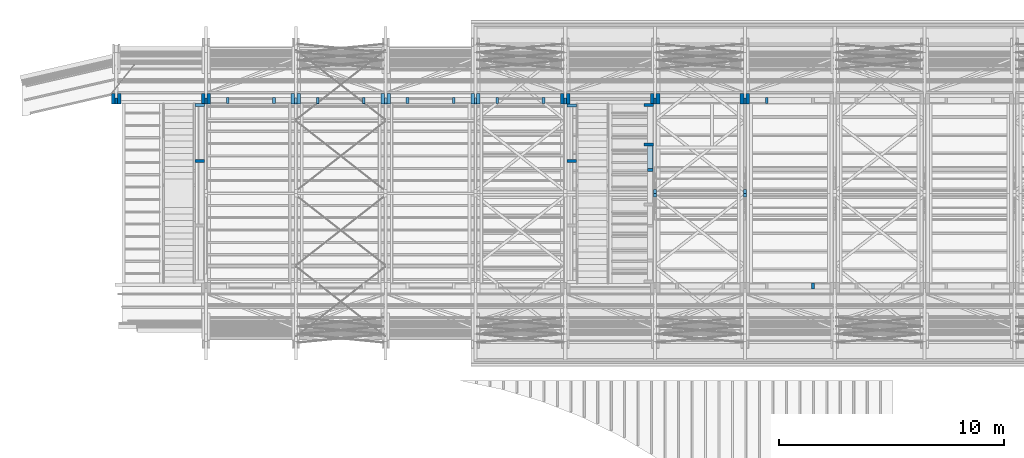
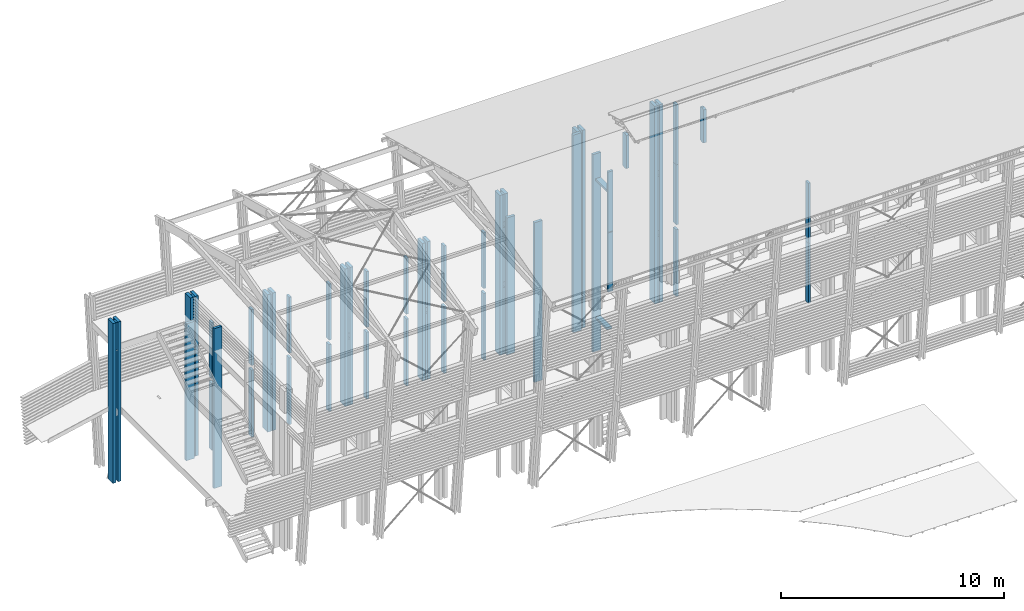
# One storey, part 2 of 48: 70 columns.
"""IFC2X3 building model written with IfcOpenShell, lengths in metres."""

from ifc_helpers import new_model, si_unit, direction, frame, origin_with_axes, place, context, subcontext, project, spatial, faceted_brep, material, element, save


model = new_model("IFC2X3")

# Units and contexts
model_context = context("Model", 3, precision=1e-06, world=origin_with_axes(), true_north=direction((0.0, 1.0, 0.0)))
body_context = subcontext(model_context, "Body", "Model", "MODEL_VIEW")
ifc_project = project(units=[si_unit("LENGTHUNIT", "METRE"), si_unit("AREAUNIT", "SQUARE_METRE"), si_unit("VOLUMEUNIT", "CUBIC_METRE"), si_unit("PLANEANGLEUNIT", "RADIAN")], contexts=[model_context])

# Site, building, storey
site_placement = place(None, origin_with_axes())
site = spatial("IfcSite", under=ifc_project, at=site_placement, CompositionType="ELEMENT")
building_placement = place(site_placement, origin_with_axes())
building = spatial("IfcBuilding", under=site, at=building_placement, Name="Building 1", CompositionType="ELEMENT")
storey_placement = place(building_placement, origin_with_axes())
storey = spatial("IfcBuildingStorey", under=building, at=storey_placement, Name="Storey 1", CompositionType="ELEMENT", Elevation=0.0)

# Columns
ifc_material = material(Name="GL28h")
column_1_placement = place(storey_placement, frame((38.4597437, -185.0764881, 0.3), z_axis=(0.0, 1.0, 0.0), x_axis=(0.0, 0.0, 1.0)))
element("IfcColumn", 1, at=column_1_placement, inside=storey, material=ifc_material, Name="poteau encadrement menuiserie", context=body_context, shape_type="Brep", body=[
    faceted_brep([(3.655, -0.06, -0.13), (0.0, -0.06, -0.13), (0.0, 0.06, -0.13), (3.655, 0.06, -0.13), (3.655, -0.06, 0.13), (0.0, -0.06, 0.13), (3.655, 0.06, 0.13), (0.0, 0.06, 0.13)], [[[0, 1, 2, 3]], [[4, 5, 1, 0]], [[6, 7, 5, 4]], [[3, 2, 7, 6]], [[3, 6, 4, 0]], [[7, 2, 1, 5]]]),
])
column_2_placement = place(storey_placement, frame((37.4897437, -185.0964881, 0.3), z_axis=(0.0, 1.0, 0.0), x_axis=(0.0, 0.0, 1.0)))
element("IfcColumn", 2, at=column_2_placement, inside=storey, material=ifc_material, Name="Fourrure", context=body_context, shape_type="Brep", body=[
    faceted_brep([(3.629, 0.05, -0.13), (3.629, 0.05, 0.13), (3.629, -0.05, 0.13), (3.629, -0.05, -0.13), (0.0, 0.05, 0.13), (0.0, -0.05, 0.13), (0.0, 0.05, -0.13), (0.0, -0.05, -0.13)], [[[0, 1, 2, 3]], [[2, 1, 4, 5]], [[1, 0, 6, 4]], [[0, 3, 7, 6]], [[3, 2, 5, 7]], [[4, 6, 7, 5]]]),
])
column_3_placement = place(storey_placement, frame((37.6197437, -184.9964881, 0.3), z_axis=(0.0, 1.0, 0.0), x_axis=(0.0, 0.0, 1.0)))
element("IfcColumn", 3, at=column_3_placement, inside=storey, material=ifc_material, Name="Poteau", context=body_context, shape_type="Brep", body=[
    faceted_brep([(7.509, 0.08, 0.23), (7.509, 0.08, -0.23), (0.0, 0.08, -0.23), (0.0, 0.08, 0.23), (7.509, -0.08, -0.23), (0.0, -0.08, -0.23), (7.509, -0.08, 0.23), (0.0, -0.08, 0.23)], [[[0, 1, 2, 3]], [[1, 4, 5, 2]], [[4, 6, 7, 5]], [[6, 0, 3, 7]], [[0, 6, 4, 1]], [[5, 7, 3, 2]]]),
])
column_4_placement = place(storey_placement, frame((28.5197437, -185.0764881, 4.215), z_axis=(0.0, -1.0, 0.0), x_axis=(0.0, 0.0, 1.0)))
element("IfcColumn", 4, at=column_4_placement, inside=storey, material=ifc_material, Name="poteau encadrement menuiserie", context=body_context, shape_type="Brep", body=[
    faceted_brep([(3.055, 0.06, -0.13), (3.055, -0.06, -0.13), (0.0, -0.06, -0.13), (0.0, 0.06, -0.13), (3.055, -0.06, 0.13), (0.0, -0.06, 0.13), (3.055, 0.06, 0.13), (0.0, 0.06, 0.13)], [[[0, 1, 2, 3]], [[1, 4, 5, 2]], [[4, 6, 7, 5]], [[6, 0, 3, 7]], [[0, 6, 4, 1]], [[7, 3, 2, 5]]]),
])
column_5_placement = place(storey_placement, frame((41.7697437, -187.7680698, 0.3), z_axis=(-1.0, 0.0, 0.0), x_axis=(0.0, 0.0, 1.0)))
element("IfcColumn", 5, at=column_5_placement, inside=storey, material=ifc_material, Name="poteau", context=body_context, shape_type="Brep", body=[
    faceted_brep([(8.73, 0.07, 0.21), (8.73, 0.07, -0.21), (0.0, 0.07, -0.21), (0.0, 0.07, 0.21), (8.73, -0.07, -0.21), (0.0, -0.07, -0.21), (8.73, -0.07, 0.21), (0.0, -0.07, 0.21)], [[[0, 1, 2, 3]], [[1, 4, 5, 2]], [[4, 6, 7, 5]], [[6, 0, 3, 7]], [[0, 6, 4, 1]], [[5, 7, 3, 2]]]),
])
column_6_placement = place(storey_placement, frame((41.3597437, -184.9964881, 0.3), z_axis=(0.0, 1.0, 0.0), x_axis=(0.0, 0.0, 1.0)))
element("IfcColumn", 6, at=column_6_placement, inside=storey, material=ifc_material, Name="Poteau", context=body_context, shape_type="Brep", body=[
    faceted_brep([(8.73, 0.08, 0.23), (8.73, 0.08, -0.23), (0.0, 0.08, -0.23), (0.0, 0.08, 0.23), (8.73, -0.08, -0.23), (0.0, -0.08, -0.23), (8.73, -0.08, 0.23), (0.0, -0.08, 0.23)], [[[0, 1, 2, 3]], [[1, 4, 5, 2]], [[4, 6, 7, 5]], [[6, 0, 3, 7]], [[0, 6, 4, 1]], [[5, 7, 3, 2]]]),
])
column_7_placement = place(storey_placement, frame((41.4897437, -185.0964881, 4.249), z_axis=(0.0, 1.0, 0.0), x_axis=(0.0, 0.0, 1.0)))
element("IfcColumn", 7, at=column_7_placement, inside=storey, material=ifc_material, Name="Fourrure", context=body_context, shape_type="Brep", body=[
    faceted_brep([(0.0, 0.05, -0.13), (0.0, -0.05, -0.13), (0.0, -0.05, 0.13), (0.0, 0.05, 0.13), (2.96, -0.05, -0.13), (2.96, -0.05, 0.13), (2.96, 0.05, -0.13), (2.96, 0.05, 0.13)], [[[0, 1, 2, 3]], [[2, 1, 4, 5]], [[1, 0, 6, 4]], [[3, 2, 5, 7]], [[0, 3, 7, 6]], [[6, 7, 5, 4]]]),
])
column_8_placement = place(storey_placement, frame((45.2697437, -188.1664884, 7.495), z_axis=(-1.0, 0.0, 0.0), x_axis=(0.0, 0.0, 1.0)))
element("IfcColumn", 8, at=column_8_placement, inside=storey, material=ifc_material, Name="poteau encadrement menuiserie", context=body_context, shape_type="Brep", body=[
    faceted_brep([(3.285, -0.06, -0.13), (0.0, -0.06, -0.13), (0.0, 0.06, -0.13), (3.285, 0.06, -0.13), (3.285, -0.06, 0.13), (0.0, -0.06, 0.13), (3.285, 0.06, 0.13), (0.0, 0.06, 0.13)], [[[0, 1, 2, 3]], [[4, 5, 1, 0]], [[6, 7, 5, 4]], [[3, 2, 7, 6]], [[3, 6, 4, 0]], [[7, 2, 1, 5]]]),
])
column_9_placement = place(storey_placement, frame((25.6197437, -184.9964881, 0.3), z_axis=(0.0, 1.0, 0.0), x_axis=(0.0, 0.0, 1.0)))
element("IfcColumn", 9, at=column_9_placement, inside=storey, material=ifc_material, Name="Poteau", context=body_context, shape_type="Brep", body=[
    faceted_brep([(8.73, 0.08, 0.23), (8.73, 0.08, -0.23), (0.0, 0.08, -0.23), (0.0, 0.08, 0.23), (8.73, -0.08, -0.23), (0.0, -0.08, -0.23), (8.73, -0.08, 0.23), (0.0, -0.08, 0.23)], [[[0, 1, 2, 3]], [[1, 4, 5, 2]], [[4, 6, 7, 5]], [[6, 0, 3, 7]], [[0, 6, 4, 1]], [[5, 7, 3, 2]]]),
])
column_10_placement = place(storey_placement, frame((33.3597437, -184.9964881, 0.3), z_axis=(0.0, 1.0, 0.0), x_axis=(0.0, 0.0, 1.0)))
element("IfcColumn", 10, at=column_10_placement, inside=storey, material=ifc_material, Name="Poteau", context=body_context, shape_type="Brep", body=[
    faceted_brep([(7.509, 0.08, 0.23), (7.509, 0.08, -0.23), (0.0, 0.08, -0.23), (0.0, 0.08, 0.23), (7.509, -0.08, -0.23), (0.0, -0.08, -0.23), (7.509, -0.08, 0.23), (0.0, -0.08, 0.23)], [[[0, 1, 2, 3]], [[1, 4, 5, 2]], [[4, 6, 7, 5]], [[6, 0, 3, 7]], [[0, 6, 4, 1]], [[5, 7, 3, 2]]]),
])
column_11_placement = place(storey_placement, frame((30.4597437, -185.0764881, 0.3), z_axis=(0.0, 1.0, 0.0), x_axis=(0.0, 0.0, 1.0)))
element("IfcColumn", 11, at=column_11_placement, inside=storey, material=ifc_material, Name="poteau encadrement menuiserie", context=body_context, shape_type="Brep", body=[
    faceted_brep([(3.655, -0.06, -0.13), (0.0, -0.06, -0.13), (0.0, 0.06, -0.13), (3.655, 0.06, -0.13), (3.655, -0.06, 0.13), (0.0, -0.06, 0.13), (3.655, 0.06, 0.13), (0.0, 0.06, 0.13)], [[[0, 1, 2, 3]], [[4, 5, 1, 0]], [[6, 7, 5, 4]], [[3, 2, 7, 6]], [[3, 6, 4, 0]], [[7, 2, 1, 5]]]),
])
column_12_placement = place(storey_placement, frame((21.3597437, -184.9964881, 0.3), z_axis=(0.0, 1.0, 0.0), x_axis=(0.0, 0.0, 1.0)))
element("IfcColumn", 12, at=column_12_placement, inside=storey, material=ifc_material, Name="Poteau", context=body_context, shape_type="Brep", body=[
    faceted_brep([(8.73, 0.08, 0.23), (8.73, 0.08, -0.23), (0.0, 0.08, -0.23), (0.0, 0.08, 0.23), (8.73, -0.08, -0.23), (0.0, -0.08, -0.23), (8.73, -0.08, 0.23), (0.0, -0.08, 0.23)], [[[0, 1, 2, 3]], [[1, 4, 5, 2]], [[4, 6, 7, 5]], [[6, 0, 3, 7]], [[0, 6, 4, 1]], [[5, 7, 3, 2]]]),
])
for number, where, z_axis, x_axis, name in (
    (13, (40.5197437, -185.0764881, 0.3), (0.0, 1.0, 0.0), (0.0, 0.0, 1.0), "poteau encadrement menuiserie"),
    (14, (34.4597437, -185.0764881, 0.3), (0.0, 1.0, 0.0), (0.0, 0.0, 1.0), "poteau encadrement menuiserie"),
):
    element("IfcColumn", number, at=place(storey_placement, frame(where, z_axis=z_axis, x_axis=x_axis)), inside=storey, material=ifc_material, Name=name, context=body_context, shape_type="Brep", body=[
        faceted_brep([(3.655, -0.06, -0.13), (0.0, -0.06, -0.13), (0.0, 0.06, -0.13), (3.655, 0.06, -0.13), (3.655, -0.06, 0.13), (0.0, -0.06, 0.13), (3.655, 0.06, 0.13), (0.0, 0.06, 0.13)], [[[0, 1, 2, 3]], [[4, 5, 1, 0]], [[6, 7, 5, 4]], [[3, 2, 7, 6]], [[3, 6, 4, 0]], [[7, 2, 1, 5]]]),
    ])
column_13_placement = place(storey_placement, frame((52.5197437, -193.3396515, 4.215), z_axis=(0.0, 1.0, 0.0), x_axis=(0.0, 0.0, 1.0)))
element("IfcColumn", 15, at=column_13_placement, inside=storey, material=ifc_material, Name="poteau encadrement menuiserie", context=body_context, shape_type="Brep", body=[
    faceted_brep([(3.3, 0.06, 0.13), (3.3, 0.06, -0.13), (0.0, 0.06, -0.13), (0.0, 0.06, 0.13), (3.3, -0.06, -0.13), (0.0, -0.06, -0.13), (3.3, -0.06, 0.13), (0.0, -0.06, 0.13)], [[[0, 1, 2, 3]], [[1, 4, 5, 2]], [[4, 6, 7, 5]], [[5, 7, 3, 2]], [[6, 0, 3, 7]], [[0, 6, 4, 1]]]),
])
column_14_placement = place(storey_placement, frame((49.4897437, -189.2080698, 11.5112653), z_axis=(0.0, -1.0, 0.0), x_axis=(0.0, 0.0, 1.0)))
element("IfcColumn", 16, at=column_14_placement, inside=storey, material=ifc_material, Name="poinçon", context=body_context, shape_type="Brep", body=[
    faceted_brep([(0.0428719, 0.07, 0.16), (0.0428719, -0.07, 0.16), (1.8571281, -0.07, 0.16), (1.8571281, 0.07, 0.16), (0.0, -0.07, 0.0), (0.0, 0.07, 0.0), (1.9, -0.07, 0.0), (1.9, 0.07, 0.0), (0.0428719, 0.07, -0.16), (0.0428719, -0.07, -0.16), (1.8571281, 0.07, -0.16), (1.8571281, -0.07, -0.16)], [[[0, 1, 2, 3]], [[4, 1, 0, 5]], [[6, 7, 3, 2]], [[8, 9, 4, 5]], [[8, 5, 0, 3, 7, 10]], [[9, 8, 10, 11]], [[11, 10, 7, 6]], [[4, 9, 11, 6, 2, 1]]]),
])
column_15_placement = place(storey_placement, frame((38.4597437, -185.0764881, 4.215), z_axis=(0.0, -1.0, 0.0), x_axis=(0.0, 0.0, 1.0)))
element("IfcColumn", 17, at=column_15_placement, inside=storey, material=ifc_material, Name="poteau encadrement menuiserie", context=body_context, shape_type="Brep", body=[
    faceted_brep([(3.055, 0.06, -0.13), (3.055, -0.06, -0.13), (0.0, -0.06, -0.13), (0.0, 0.06, -0.13), (3.055, -0.06, 0.13), (0.0, -0.06, 0.13), (3.055, 0.06, 0.13), (0.0, 0.06, 0.13)], [[[0, 1, 2, 3]], [[1, 4, 5, 2]], [[4, 6, 7, 5]], [[6, 0, 3, 7]], [[0, 6, 4, 1]], [[7, 3, 2, 5]]]),
])
column_16_placement = place(storey_placement, frame((33.6197437, -184.9964881, 0.3), z_axis=(0.0, 1.0, 0.0), x_axis=(0.0, 0.0, 1.0)))
element("IfcColumn", 18, at=column_16_placement, inside=storey, material=ifc_material, Name="Poteau", context=body_context, shape_type="Brep", body=[
    faceted_brep([(7.509, 0.08, 0.23), (7.509, 0.08, -0.23), (0.0, 0.08, -0.23), (0.0, 0.08, 0.23), (7.509, -0.08, -0.23), (0.0, -0.08, -0.23), (7.509, -0.08, 0.23), (0.0, -0.08, 0.23)], [[[0, 1, 2, 3]], [[1, 4, 5, 2]], [[4, 6, 7, 5]], [[6, 0, 3, 7]], [[0, 6, 4, 1]], [[5, 7, 3, 2]]]),
])
column_17_placement = place(storey_placement, frame((45.4897437, -185.0964881, 0.3), z_axis=(0.0, 1.0, 0.0), x_axis=(0.0, 0.0, 1.0)))
element("IfcColumn", 19, at=column_17_placement, inside=storey, material=ifc_material, Name="Fourrure", context=body_context, shape_type="Brep", body=[
    faceted_brep([(3.629, 0.05, -0.13), (3.629, 0.05, 0.13), (3.629, -0.05, 0.13), (3.629, -0.05, -0.13), (0.0, 0.05, 0.13), (0.0, -0.05, 0.13), (0.0, 0.05, -0.13), (0.0, -0.05, -0.13)], [[[0, 1, 2, 3]], [[2, 1, 4, 5]], [[1, 0, 6, 4]], [[0, 3, 7, 6]], [[3, 2, 5, 7]], [[4, 6, 7, 5]]]),
])
column_18_placement = place(storey_placement, frame((40.5197437, -185.0764881, 4.215), z_axis=(0.0, -1.0, 0.0), x_axis=(0.0, 0.0, 1.0)))
element("IfcColumn", 20, at=column_18_placement, inside=storey, material=ifc_material, Name="poteau encadrement menuiserie", context=body_context, shape_type="Brep", body=[
    faceted_brep([(3.055, 0.06, -0.13), (3.055, -0.06, -0.13), (0.0, -0.06, -0.13), (0.0, 0.06, -0.13), (3.055, -0.06, 0.13), (0.0, -0.06, 0.13), (3.055, 0.06, 0.13), (0.0, 0.06, 0.13)], [[[0, 1, 2, 3]], [[1, 4, 5, 2]], [[4, 6, 7, 5]], [[6, 0, 3, 7]], [[0, 6, 4, 1]], [[7, 3, 2, 5]]]),
])
column_19_placement = place(storey_placement, frame((36.5197437, -185.0764881, 0.3), z_axis=(0.0, 1.0, 0.0), x_axis=(0.0, 0.0, 1.0)))
element("IfcColumn", 21, at=column_19_placement, inside=storey, material=ifc_material, Name="poteau encadrement menuiserie", context=body_context, shape_type="Brep", body=[
    faceted_brep([(3.655, -0.06, -0.13), (0.0, -0.06, -0.13), (0.0, 0.06, -0.13), (3.655, 0.06, -0.13), (3.655, -0.06, 0.13), (0.0, -0.06, 0.13), (3.655, 0.06, 0.13), (0.0, 0.06, 0.13)], [[[0, 1, 2, 3]], [[4, 5, 1, 0]], [[6, 7, 5, 4]], [[3, 2, 7, 6]], [[3, 6, 4, 0]], [[7, 2, 1, 5]]]),
])
for number, where, z_axis, x_axis, name in (
    (22, (30.4597437, -185.0964881, 4.215), (0.0, -1.0, 0.0), (0.0, 0.0, 1.0), "poteau encadrement menuiserie"),
    (23, (32.5197437, -185.0964881, 4.215), (0.0, -1.0, 0.0), (0.0, 0.0, 1.0), "poteau encadrement menuiserie"),
    (24, (36.5197437, -185.0764881, 4.215), (0.0, -1.0, 0.0), (0.0, 0.0, 1.0), "poteau encadrement menuiserie"),
    (25, (34.4597437, -185.0764881, 4.215), (0.0, -1.0, 0.0), (0.0, 0.0, 1.0), "poteau encadrement menuiserie"),
):
    element("IfcColumn", number, at=place(storey_placement, frame(where, z_axis=z_axis, x_axis=x_axis)), inside=storey, material=ifc_material, Name=name, context=body_context, shape_type="Brep", body=[
        faceted_brep([(3.055, 0.06, -0.13), (3.055, -0.06, -0.13), (0.0, -0.06, -0.13), (0.0, 0.06, -0.13), (3.055, -0.06, 0.13), (0.0, -0.06, 0.13), (3.055, 0.06, 0.13), (0.0, 0.06, 0.13)], [[[0, 1, 2, 3]], [[1, 4, 5, 2]], [[4, 6, 7, 5]], [[6, 0, 3, 7]], [[0, 6, 4, 1]], [[7, 3, 2, 5]]]),
    ])
column_20_placement = place(storey_placement, frame((32.5197437, -185.0764881, 0.3), z_axis=(0.0, 1.0, 0.0), x_axis=(0.0, 0.0, 1.0)))
element("IfcColumn", 26, at=column_20_placement, inside=storey, material=ifc_material, Name="poteau encadrement menuiserie", context=body_context, shape_type="Brep", body=[
    faceted_brep([(3.655, -0.06, -0.13), (0.0, -0.06, -0.13), (0.0, 0.06, -0.13), (3.655, 0.06, -0.13), (3.655, -0.06, 0.13), (0.0, -0.06, 0.13), (3.655, 0.06, 0.13), (0.0, 0.06, 0.13)], [[[0, 1, 2, 3]], [[4, 5, 1, 0]], [[6, 7, 5, 4]], [[3, 2, 7, 6]], [[3, 6, 4, 0]], [[7, 2, 1, 5]]]),
])
column_21_placement = place(storey_placement, frame((32.5197437, -185.0764881, 4.215), z_axis=(0.0, -1.0, 0.0), x_axis=(0.0, 0.0, 1.0)))
element("IfcColumn", 27, at=column_21_placement, inside=storey, material=ifc_material, Name="poteau encadrement menuiserie", context=body_context, shape_type="Brep", body=[
    faceted_brep([(3.055, 0.06, -0.13), (3.055, -0.06, -0.13), (0.0, -0.06, -0.13), (0.0, 0.06, -0.13), (3.055, -0.06, 0.13), (0.0, -0.06, 0.13), (3.055, 0.06, 0.13), (0.0, 0.06, 0.13)], [[[0, 1, 2, 3]], [[1, 4, 5, 2]], [[4, 6, 7, 5]], [[6, 0, 3, 7]], [[0, 6, 4, 1]], [[7, 3, 2, 5]]]),
])
column_22_placement = place(storey_placement, frame((25.2097437, -187.7680698, 0.3), z_axis=(-1.0, 0.0, 0.0), x_axis=(0.0, 0.0, 1.0)))
element("IfcColumn", 28, at=column_22_placement, inside=storey, material=ifc_material, Name="poteau", context=body_context, shape_type="Brep", body=[
    faceted_brep([(8.73, 0.07, 0.21), (8.73, 0.07, -0.21), (0.0, 0.07, -0.21), (0.0, 0.07, 0.21), (8.73, -0.07, -0.21), (0.0, -0.07, -0.21), (8.73, -0.07, 0.21), (0.0, -0.07, 0.21)], [[[0, 1, 2, 3]], [[1, 4, 5, 2]], [[4, 6, 7, 5]], [[6, 0, 3, 7]], [[0, 6, 4, 1]], [[5, 7, 3, 2]]]),
])
for number, where, z_axis, x_axis, name in (
    (29, (25.2097437, -185.2764885, 0.3), (1.0, 0.0, 0.0), (0.0, 0.0, 1.0), "poteau"),
    (30, (41.7697437, -185.2964881, 0.3), (1.0, 0.0, 0.0), (0.0, 0.0, 1.0), "poteau"),
):
    element("IfcColumn", number, at=place(storey_placement, frame(where, z_axis=z_axis, x_axis=x_axis)), inside=storey, material=ifc_material, Name=name, context=body_context, shape_type="Brep", body=[
        faceted_brep([(7.49, 0.07, 0.21), (7.49, 0.07, -0.21), (0.0, 0.07, -0.21), (0.0, 0.07, 0.21), (7.49, -0.07, -0.21), (0.0, -0.07, -0.21), (7.49, -0.07, 0.21), (0.0, -0.07, 0.21)], [[[0, 1, 2, 3]], [[1, 4, 5, 2]], [[4, 6, 7, 5]], [[6, 0, 3, 7]], [[0, 6, 4, 1]], [[3, 2, 5, 7]]]),
    ])
column_23_placement = place(storey_placement, frame((29.4897437, -185.0964881, 4.249), z_axis=(0.0, 1.0, 0.0), x_axis=(0.0, 0.0, 1.0)))
element("IfcColumn", 31, at=column_23_placement, inside=storey, material=ifc_material, Name="Fourrure", context=body_context, shape_type="Brep", body=[
    faceted_brep([(0.0, 0.05, -0.13), (0.0, -0.05, -0.13), (0.0, -0.05, 0.13), (0.0, 0.05, 0.13), (2.96, -0.05, -0.13), (2.96, -0.05, 0.13), (2.96, 0.05, -0.13), (2.96, 0.05, 0.13)], [[[0, 1, 2, 3]], [[2, 1, 4, 5]], [[1, 0, 6, 4]], [[3, 2, 5, 7]], [[0, 3, 7, 6]], [[6, 7, 5, 4]]]),
])
column_24_placement = place(storey_placement, frame((30.4597437, -185.0764881, 4.215), z_axis=(0.0, -1.0, 0.0), x_axis=(0.0, 0.0, 1.0)))
element("IfcColumn", 32, at=column_24_placement, inside=storey, material=ifc_material, Name="poteau encadrement menuiserie", context=body_context, shape_type="Brep", body=[
    faceted_brep([(3.055, 0.06, -0.13), (3.055, -0.06, -0.13), (0.0, -0.06, -0.13), (0.0, 0.06, -0.13), (3.055, -0.06, 0.13), (0.0, -0.06, 0.13), (3.055, 0.06, 0.13), (0.0, 0.06, 0.13)], [[[0, 1, 2, 3]], [[1, 4, 5, 2]], [[4, 6, 7, 5]], [[6, 0, 3, 7]], [[0, 6, 4, 1]], [[7, 3, 2, 5]]]),
])
for number, where, z_axis, x_axis, name in (
    (33, (26.4597437, -185.0764881, 0.3), (0.0, 1.0, 0.0), (0.0, 0.0, 1.0), "poteau encadrement menuiserie"),
    (34, (28.5197437, -185.0764881, 0.3), (0.0, 1.0, 0.0), (0.0, 0.0, 1.0), "poteau encadrement menuiserie"),
):
    element("IfcColumn", number, at=place(storey_placement, frame(where, z_axis=z_axis, x_axis=x_axis)), inside=storey, material=ifc_material, Name=name, context=body_context, shape_type="Brep", body=[
        faceted_brep([(3.655, -0.06, -0.13), (0.0, -0.06, -0.13), (0.0, 0.06, -0.13), (3.655, 0.06, -0.13), (3.655, -0.06, 0.13), (0.0, -0.06, 0.13), (3.655, 0.06, 0.13), (0.0, 0.06, 0.13)], [[[0, 1, 2, 3]], [[4, 5, 1, 0]], [[6, 7, 5, 4]], [[3, 2, 7, 6]], [[3, 6, 4, 0]], [[7, 2, 1, 5]]]),
    ])
column_25_placement = place(storey_placement, frame((26.4597437, -185.0764881, 4.215), z_axis=(0.0, -1.0, 0.0), x_axis=(0.0, 0.0, 1.0)))
element("IfcColumn", 35, at=column_25_placement, inside=storey, material=ifc_material, Name="poteau encadrement menuiserie", context=body_context, shape_type="Brep", body=[
    faceted_brep([(3.055, 0.06, -0.13), (3.055, -0.06, -0.13), (0.0, -0.06, -0.13), (0.0, 0.06, -0.13), (3.055, -0.06, 0.13), (0.0, -0.06, 0.13), (3.055, 0.06, 0.13), (0.0, 0.06, 0.13)], [[[0, 1, 2, 3]], [[1, 4, 5, 2]], [[4, 6, 7, 5]], [[6, 0, 3, 7]], [[0, 6, 4, 1]], [[7, 3, 2, 5]]]),
])
column_26_placement = place(storey_placement, frame((25.4897437, -185.0964881, 4.249), z_axis=(0.0, 1.0, 0.0), x_axis=(0.0, 0.0, 1.0)))
element("IfcColumn", 36, at=column_26_placement, inside=storey, material=ifc_material, Name="Fourrure", context=body_context, shape_type="Brep", body=[
    faceted_brep([(0.0, 0.05, -0.13), (0.0, -0.05, -0.13), (0.0, -0.05, 0.13), (0.0, 0.05, 0.13), (2.96, -0.05, -0.13), (2.96, -0.05, 0.13), (2.96, 0.05, -0.13), (2.96, 0.05, 0.13)], [[[0, 1, 2, 3]], [[2, 1, 4, 5]], [[1, 0, 6, 4]], [[3, 2, 5, 7]], [[0, 3, 7, 6]], [[6, 7, 5, 4]]]),
])
column_27_placement = place(storey_placement, frame((41.4897437, -185.0964881, 7.529), z_axis=(0.0, 1.0, 0.0), x_axis=(0.0, 0.0, 1.0)))
element("IfcColumn", 37, at=column_27_placement, inside=storey, material=ifc_material, Name="Fourrure", context=body_context, shape_type="Brep", body=[
    faceted_brep([(1.501, 0.05, -0.13), (1.501, -0.05, -0.13), (0.0, -0.05, -0.13), (0.0, 0.05, -0.13), (1.501, -0.05, 0.13), (0.0, -0.05, 0.13), (1.501, 0.05, 0.13), (0.0, 0.05, 0.13)], [[[0, 1, 2, 3]], [[1, 4, 5, 2]], [[4, 6, 7, 5]], [[6, 0, 3, 7]], [[0, 6, 4, 1]], [[3, 2, 5, 7]]]),
])
column_28_placement = place(storey_placement, frame((41.4897437, -185.0964881, 0.3), z_axis=(0.0, 1.0, 0.0), x_axis=(0.0, 0.0, 1.0)))
element("IfcColumn", 38, at=column_28_placement, inside=storey, material=ifc_material, Name="Fourrure", context=body_context, shape_type="Brep", body=[
    faceted_brep([(3.629, 0.05, -0.13), (3.629, 0.05, 0.13), (3.629, -0.05, 0.13), (3.629, -0.05, -0.13), (0.0, 0.05, 0.13), (0.0, -0.05, 0.13), (0.0, 0.05, -0.13), (0.0, -0.05, -0.13)], [[[0, 1, 2, 3]], [[2, 1, 4, 5]], [[1, 0, 6, 4]], [[0, 3, 7, 6]], [[3, 2, 5, 7]], [[4, 6, 7, 5]]]),
])
column_29_placement = place(storey_placement, frame((41.6197437, -184.9964881, 0.3), z_axis=(0.0, 1.0, 0.0), x_axis=(0.0, 0.0, 1.0)))
element("IfcColumn", 39, at=column_29_placement, inside=storey, material=ifc_material, Name="Poteau", context=body_context, shape_type="Brep", body=[
    faceted_brep([(8.73, 0.08, 0.23), (8.73, 0.08, -0.23), (0.0, 0.08, -0.23), (0.0, 0.08, 0.23), (8.73, -0.08, -0.23), (0.0, -0.08, -0.23), (8.73, -0.08, 0.23), (0.0, -0.08, 0.23)], [[[0, 1, 2, 3]], [[1, 4, 5, 2]], [[4, 6, 7, 5]], [[6, 0, 3, 7]], [[0, 6, 4, 1]], [[5, 7, 3, 2]]]),
])
column_30_placement = place(storey_placement, frame((37.4897437, -185.0964881, 4.249), z_axis=(0.0, 1.0, 0.0), x_axis=(0.0, 0.0, 1.0)))
element("IfcColumn", 40, at=column_30_placement, inside=storey, material=ifc_material, Name="Fourrure", context=body_context, shape_type="Brep", body=[
    faceted_brep([(0.0, 0.05, -0.13), (0.0, -0.05, -0.13), (0.0, -0.05, 0.13), (0.0, 0.05, 0.13), (2.96, -0.05, -0.13), (2.96, -0.05, 0.13), (2.96, 0.05, -0.13), (2.96, 0.05, 0.13)], [[[0, 1, 2, 3]], [[2, 1, 4, 5]], [[1, 0, 6, 4]], [[3, 2, 5, 7]], [[0, 3, 7, 6]], [[6, 7, 5, 4]]]),
])
column_31_placement = place(storey_placement, frame((33.4897437, -185.0964881, 0.3), z_axis=(0.0, 1.0, 0.0), x_axis=(0.0, 0.0, 1.0)))
element("IfcColumn", 41, at=column_31_placement, inside=storey, material=ifc_material, Name="Fourrure", context=body_context, shape_type="Brep", body=[
    faceted_brep([(3.629, 0.05, -0.13), (3.629, 0.05, 0.13), (3.629, -0.05, 0.13), (3.629, -0.05, -0.13), (0.0, 0.05, 0.13), (0.0, -0.05, 0.13), (0.0, 0.05, -0.13), (0.0, -0.05, -0.13)], [[[0, 1, 2, 3]], [[2, 1, 4, 5]], [[1, 0, 6, 4]], [[0, 3, 7, 6]], [[3, 2, 5, 7]], [[4, 6, 7, 5]]]),
])
column_32_placement = place(storey_placement, frame((33.4897437, -185.0964881, 4.249), z_axis=(0.0, 1.0, 0.0), x_axis=(0.0, 0.0, 1.0)))
element("IfcColumn", 42, at=column_32_placement, inside=storey, material=ifc_material, Name="Fourrure", context=body_context, shape_type="Brep", body=[
    faceted_brep([(0.0, 0.05, -0.13), (0.0, -0.05, -0.13), (0.0, -0.05, 0.13), (0.0, 0.05, 0.13), (2.96, -0.05, -0.13), (2.96, -0.05, 0.13), (2.96, 0.05, -0.13), (2.96, 0.05, 0.13)], [[[0, 1, 2, 3]], [[2, 1, 4, 5]], [[1, 0, 6, 4]], [[3, 2, 5, 7]], [[0, 3, 7, 6]], [[6, 7, 5, 4]]]),
])
for number, where, z_axis, x_axis, name in (
    (43, (37.3597437, -184.9964881, 0.3), (0.0, 1.0, 0.0), (0.0, 0.0, 1.0), "Poteau"),
    (44, (29.6197437, -184.9964881, 0.3), (0.0, 1.0, 0.0), (0.0, 0.0, 1.0), "Poteau"),
    (45, (29.3597437, -184.9964881, 0.3), (0.0, 1.0, 0.0), (0.0, 0.0, 1.0), "Poteau"),
):
    element("IfcColumn", number, at=place(storey_placement, frame(where, z_axis=z_axis, x_axis=x_axis)), inside=storey, material=ifc_material, Name=name, context=body_context, shape_type="Brep", body=[
        faceted_brep([(7.509, 0.08, 0.23), (7.509, 0.08, -0.23), (0.0, 0.08, -0.23), (0.0, 0.08, 0.23), (7.509, -0.08, -0.23), (0.0, -0.08, -0.23), (7.509, -0.08, 0.23), (0.0, -0.08, 0.23)], [[[0, 1, 2, 3]], [[1, 4, 5, 2]], [[4, 6, 7, 5]], [[6, 0, 3, 7]], [[0, 6, 4, 1]], [[5, 7, 3, 2]]]),
    ])
column_33_placement = place(storey_placement, frame((45.3597437, -184.9964881, 0.3), z_axis=(0.0, 1.0, 0.0), x_axis=(0.0, 0.0, 1.0)))
element("IfcColumn", 46, at=column_33_placement, inside=storey, material=ifc_material, Name="Poteau", context=body_context, shape_type="Brep", body=[
    faceted_brep([(10.8, 0.08, 0.23), (0.0, 0.08, 0.23), (0.0, -0.08, 0.23), (10.8, -0.08, 0.23), (10.8, 0.08, -0.23), (0.0, 0.08, -0.23), (10.8, -0.08, -0.23), (0.0, -0.08, -0.23)], [[[0, 1, 2, 3]], [[0, 4, 5, 1]], [[6, 7, 5, 4]], [[2, 7, 6, 3]], [[1, 5, 7, 2]], [[3, 6, 4, 0]]]),
])
column_34_placement = place(storey_placement, frame((45.4897437, -189.2080698, 11.5112653), z_axis=(0.0, -1.0, 0.0), x_axis=(0.0, 0.0, 1.0)))
element("IfcColumn", 47, at=column_34_placement, inside=storey, material=ifc_material, Name="poinçon", context=body_context, shape_type="Brep", body=[
    faceted_brep([(0.0428719, 0.07, 0.16), (0.0428719, -0.07, 0.16), (1.8571281, -0.07, 0.16), (1.8571281, 0.07, 0.16), (0.0, -0.07, 0.0), (0.0, 0.07, 0.0), (1.9, -0.07, 0.0), (1.9, 0.07, 0.0), (0.0428719, 0.07, -0.16), (0.0428719, -0.07, -0.16), (1.8571281, 0.07, -0.16), (1.8571281, -0.07, -0.16)], [[[0, 1, 2, 3]], [[4, 1, 0, 5]], [[6, 7, 3, 2]], [[8, 9, 4, 5]], [[8, 5, 0, 3, 7, 10]], [[9, 8, 10, 11]], [[11, 10, 7, 6]], [[4, 9, 11, 6, 2, 1]]]),
])
column_35_placement = place(storey_placement, frame((29.4897437, -185.0964881, 0.3), z_axis=(0.0, 1.0, 0.0), x_axis=(0.0, 0.0, 1.0)))
element("IfcColumn", 48, at=column_35_placement, inside=storey, material=ifc_material, Name="Fourrure", context=body_context, shape_type="Brep", body=[
    faceted_brep([(3.629, 0.05, -0.13), (3.629, 0.05, 0.13), (3.629, -0.05, 0.13), (3.629, -0.05, -0.13), (0.0, 0.05, 0.13), (0.0, -0.05, 0.13), (0.0, 0.05, -0.13), (0.0, -0.05, -0.13)], [[[0, 1, 2, 3]], [[2, 1, 4, 5]], [[1, 0, 6, 4]], [[0, 3, 7, 6]], [[3, 2, 5, 7]], [[4, 6, 7, 5]]]),
])
column_36_placement = place(storey_placement, frame((45.4897437, -185.0964881, 4.249), z_axis=(0.0, 1.0, 0.0), x_axis=(0.0, 0.0, 1.0)))
element("IfcColumn", 49, at=column_36_placement, inside=storey, material=ifc_material, Name="Fourrure", context=body_context, shape_type="Brep", body=[
    faceted_brep([(0.0, 0.05, -0.13), (0.0, -0.05, -0.13), (0.0, -0.05, 0.13), (0.0, 0.05, 0.13), (2.96, -0.05, -0.13), (2.96, -0.05, 0.13), (2.96, 0.05, -0.13), (2.96, 0.05, 0.13)], [[[0, 1, 2, 3]], [[2, 1, 4, 5]], [[1, 0, 6, 4]], [[3, 2, 5, 7]], [[0, 3, 7, 6]], [[6, 7, 5, 4]]]),
])
for number, where, z_axis, x_axis in (
    (50, (45.4897437, -185.0964881, 7.529), (0.0, 1.0, 0.0), (0.0, 0.0, 1.0)),
    (51, (49.4897437, -185.0964881, 7.529), (0.0, 1.0, 0.0), (0.0, 0.0, 1.0)),
):
    element("IfcColumn", number, at=place(storey_placement, frame(where, z_axis=z_axis, x_axis=x_axis)), inside=storey, material=ifc_material, Name="Fourrure", context=body_context, shape_type="Brep", body=[
        faceted_brep([(0.0, -0.05, -0.13), (0.0, 0.05, -0.13), (3.571, 0.05, -0.13), (3.571, -0.05, -0.13), (0.0, -0.05, 0.13), (3.571, -0.05, 0.13), (0.0, 0.05, 0.13), (3.571, 0.05, 0.13)], [[[0, 1, 2, 3]], [[4, 0, 3, 5]], [[6, 4, 5, 7]], [[1, 6, 7, 2]], [[1, 0, 4, 6]], [[2, 7, 5, 3]]]),
    ])
column_37_placement = place(storey_placement, frame((49.4897437, -185.0964881, 0.3), z_axis=(0.0, 1.0, 0.0), x_axis=(0.0, 0.0, 1.0)))
element("IfcColumn", 52, at=column_37_placement, inside=storey, material=ifc_material, Name="Fourrure", context=body_context, shape_type="Brep", body=[
    faceted_brep([(3.629, 0.05, -0.13), (3.629, 0.05, 0.13), (3.629, -0.05, 0.13), (3.629, -0.05, -0.13), (0.0, 0.05, 0.13), (0.0, -0.05, 0.13), (0.0, 0.05, -0.13), (0.0, -0.05, -0.13)], [[[0, 1, 2, 3]], [[2, 1, 4, 5]], [[1, 0, 6, 4]], [[0, 3, 7, 6]], [[3, 2, 5, 7]], [[4, 6, 7, 5]]]),
])
for number, where, z_axis, x_axis, name in (
    (53, (49.3597437, -184.9964881, 0.3), (0.0, 1.0, 0.0), (0.0, 0.0, 1.0), "Poteau"),
    (54, (49.6197437, -184.9964881, 0.3), (0.0, 1.0, 0.0), (0.0, 0.0, 1.0), "Poteau"),
    (55, (45.6197437, -184.9964881, 0.3), (0.0, 1.0, 0.0), (0.0, 0.0, 1.0), "Poteau"),
):
    element("IfcColumn", number, at=place(storey_placement, frame(where, z_axis=z_axis, x_axis=x_axis)), inside=storey, material=ifc_material, Name=name, context=body_context, shape_type="Brep", body=[
        faceted_brep([(10.8, 0.08, 0.23), (0.0, 0.08, 0.23), (0.0, -0.08, 0.23), (10.8, -0.08, 0.23), (10.8, 0.08, -0.23), (0.0, 0.08, -0.23), (10.8, -0.08, -0.23), (0.0, -0.08, -0.23)], [[[0, 1, 2, 3]], [[0, 4, 5, 1]], [[6, 7, 5, 4]], [[2, 7, 6, 3]], [[1, 5, 7, 2]], [[3, 6, 4, 0]]]),
    ])
column_38_placement = place(storey_placement, frame((49.4897437, -185.0964881, 4.249), z_axis=(0.0, 1.0, 0.0), x_axis=(0.0, 0.0, 1.0)))
element("IfcColumn", 56, at=column_38_placement, inside=storey, material=ifc_material, Name="Fourrure", context=body_context, shape_type="Brep", body=[
    faceted_brep([(0.0, 0.05, -0.13), (0.0, -0.05, -0.13), (0.0, -0.05, 0.13), (0.0, 0.05, 0.13), (2.96, -0.05, -0.13), (2.96, -0.05, 0.13), (2.96, 0.05, -0.13), (2.96, 0.05, 0.13)], [[[0, 1, 2, 3]], [[2, 1, 4, 5]], [[1, 0, 6, 4]], [[3, 2, 5, 7]], [[0, 3, 7, 6]], [[6, 7, 5, 4]]]),
])
column_39_placement = place(storey_placement, frame((25.4897437, -185.0964881, 0.3), z_axis=(0.0, 1.0, 0.0), x_axis=(0.0, 0.0, 1.0)))
element("IfcColumn", 57, at=column_39_placement, inside=storey, material=ifc_material, Name="Fourrure", context=body_context, shape_type="Brep", body=[
    faceted_brep([(3.629, 0.05, -0.13), (3.629, 0.05, 0.13), (3.629, -0.05, 0.13), (3.629, -0.05, -0.13), (0.0, 0.05, 0.13), (0.0, -0.05, 0.13), (0.0, 0.05, -0.13), (0.0, -0.05, -0.13)], [[[0, 1, 2, 3]], [[2, 1, 4, 5]], [[1, 0, 6, 4]], [[0, 3, 7, 6]], [[3, 2, 5, 7]], [[4, 6, 7, 5]]]),
])
column_40_placement = place(storey_placement, frame((25.4897437, -185.0964881, 7.529), z_axis=(0.0, 1.0, 0.0), x_axis=(0.0, 0.0, 1.0)))
element("IfcColumn", 58, at=column_40_placement, inside=storey, material=ifc_material, Name="Fourrure", context=body_context, shape_type="Brep", body=[
    faceted_brep([(1.501, 0.05, -0.13), (1.501, -0.05, -0.13), (0.0, -0.05, -0.13), (0.0, 0.05, -0.13), (1.501, -0.05, 0.13), (0.0, -0.05, 0.13), (1.501, 0.05, 0.13), (0.0, 0.05, 0.13)], [[[0, 1, 2, 3]], [[1, 4, 5, 2]], [[4, 6, 7, 5]], [[6, 0, 3, 7]], [[0, 6, 4, 1]], [[3, 2, 5, 7]]]),
])
column_41_placement = place(storey_placement, frame((25.3597437, -184.9964881, 0.3), z_axis=(0.0, 1.0, 0.0), x_axis=(0.0, 0.0, 1.0)))
element("IfcColumn", 59, at=column_41_placement, inside=storey, material=ifc_material, Name="Poteau", context=body_context, shape_type="Brep", body=[
    faceted_brep([(8.73, 0.08, 0.23), (8.73, 0.08, -0.23), (0.0, 0.08, -0.23), (0.0, 0.08, 0.23), (8.73, -0.08, -0.23), (0.0, -0.08, -0.23), (8.73, -0.08, 0.23), (0.0, -0.08, 0.23)], [[[0, 1, 2, 3]], [[1, 4, 5, 2]], [[4, 6, 7, 5]], [[6, 0, 3, 7]], [[0, 6, 4, 1]], [[5, 7, 3, 2]]]),
])
for number, where, z_axis, x_axis, name in (
    (60, (52.5197437, -193.3396515, 7.495), (0.0, 1.0, 0.0), (0.0, 0.0, 1.0), "poteau encadrement menuiserie"),
    (61, (50.4597437, -185.0764881, 7.495), (0.0, 1.0, 0.0), (0.0, 0.0, 1.0), "poteau encadrement menuiserie"),
):
    element("IfcColumn", number, at=place(storey_placement, frame(where, z_axis=z_axis, x_axis=x_axis)), inside=storey, material=ifc_material, Name=name, context=body_context, shape_type="Brep", body=[
        faceted_brep([(0.0, -0.06, 0.13), (3.285, -0.06, 0.13), (3.285, 0.06, 0.13), (0.0, 0.06, 0.13), (3.285, 0.06, -0.13), (0.0, 0.06, -0.13), (3.285, -0.06, -0.13), (0.0, -0.06, -0.13)], [[[0, 1, 2, 3]], [[3, 2, 4, 5]], [[5, 4, 6, 7]], [[7, 0, 3, 5]], [[7, 6, 1, 0]], [[1, 6, 4, 2]]]),
    ])
column_42_placement = place(storey_placement, frame((50.4597437, -185.0764881, 4.215), z_axis=(0.0, -1.0, 0.0), x_axis=(0.0, 0.0, 1.0)))
element("IfcColumn", 62, at=column_42_placement, inside=storey, material=ifc_material, Name="poteau encadrement menuiserie", context=body_context, shape_type="Brep", body=[
    faceted_brep([(3.3, 0.06, 0.13), (3.3, 0.06, -0.13), (0.0, 0.06, -0.13), (0.0, 0.06, 0.13), (3.3, -0.06, -0.13), (0.0, -0.06, -0.13), (3.3, -0.06, 0.13), (0.0, -0.06, 0.13)], [[[0, 1, 2, 3]], [[1, 4, 5, 2]], [[4, 6, 7, 5]], [[6, 0, 3, 7]], [[0, 6, 4, 1]], [[3, 2, 5, 7]]]),
])
column_43_placement = place(storey_placement, frame((21.6197437, -184.9964881, 0.3), z_axis=(0.0, 1.0, 0.0), x_axis=(0.0, 0.0, 1.0)))
element("IfcColumn", 63, at=column_43_placement, inside=storey, material=ifc_material, Name="Poteau", context=body_context, shape_type="Brep", body=[
    faceted_brep([(8.73, 0.08, 0.23), (8.73, 0.08, -0.23), (0.0, 0.08, -0.23), (0.0, 0.08, 0.23), (8.73, -0.08, -0.23), (0.0, -0.08, -0.23), (8.73, -0.08, 0.23), (0.0, -0.08, 0.23)], [[[0, 1, 2, 3]], [[1, 4, 5, 2]], [[4, 6, 7, 5]], [[6, 0, 3, 7]], [[0, 6, 4, 1]], [[5, 7, 3, 2]]]),
])
column_44_placement = place(storey_placement, frame((21.4897437, -185.0964881, 7.529), z_axis=(0.0, 1.0, 0.0), x_axis=(0.0, 0.0, 1.0)))
element("IfcColumn", 64, at=column_44_placement, inside=storey, material=ifc_material, Name="Fourrure", context=body_context, shape_type="Brep", body=[
    faceted_brep([(1.501, 0.05, -0.13), (1.501, -0.05, -0.13), (0.0, -0.05, -0.13), (0.0, 0.05, -0.13), (1.501, -0.05, 0.13), (0.0, -0.05, 0.13), (1.501, 0.05, 0.13), (0.0, 0.05, 0.13)], [[[0, 1, 2, 3]], [[1, 4, 5, 2]], [[4, 6, 7, 5]], [[6, 0, 3, 7]], [[0, 6, 4, 1]], [[3, 2, 5, 7]]]),
])
column_45_placement = place(storey_placement, frame((50.4597437, -185.0764881, 0.3), z_axis=(0.0, 1.0, 0.0), x_axis=(0.0, 0.0, 1.0)))
element("IfcColumn", 65, at=column_45_placement, inside=storey, material=ifc_material, Name="poteau encadrement menuiserie", context=body_context, shape_type="Brep", body=[
    faceted_brep([(3.655, -0.06, -0.13), (0.0, -0.06, -0.13), (0.0, 0.06, -0.13), (3.655, 0.06, -0.13), (3.655, -0.06, 0.13), (0.0, -0.06, 0.13), (3.655, 0.06, 0.13), (0.0, 0.06, 0.13)], [[[0, 1, 2, 3]], [[4, 5, 1, 0]], [[6, 7, 5, 4]], [[3, 2, 7, 6]], [[3, 6, 4, 0]], [[7, 2, 1, 5]]]),
])
column_46_placement = place(storey_placement, frame((45.2697437, -188.1664884, 4.215), z_axis=(-1.0, 0.0, 0.0), x_axis=(0.0, 0.0, 1.0)))
element("IfcColumn", 66, at=column_46_placement, inside=storey, material=ifc_material, Name="poteau encadrement menuiserie", context=body_context, shape_type="Brep", body=[
    faceted_brep([(3.24, -0.06, -0.13), (0.0, -0.06, -0.13), (0.0, 0.06, -0.13), (3.24, 0.06, -0.13), (3.24, -0.06, 0.13), (0.0, -0.06, 0.13), (3.24, 0.06, 0.13), (0.0, 0.06, 0.13)], [[[0, 1, 2, 3]], [[4, 5, 1, 0]], [[6, 7, 5, 4]], [[3, 2, 7, 6]], [[3, 6, 4, 0]], [[7, 2, 1, 5]]]),
])
column_47_placement = place(storey_placement, frame((45.2697437, -188.1064884, 2.135), z_axis=(-1.0, 0.0, 0.0), x_axis=(0.0, 1.0, 0.0)))
element("IfcColumn", 67, at=column_47_placement, inside=storey, material=ifc_material, Name="poteau encadrement menuiserie", context=body_context, shape_type="Brep", body=[
    faceted_brep([(0.0, 0.06, -0.13), (0.0, -0.06, -0.13), (0.0, -0.06, 0.13), (0.0, 0.06, 0.13), (1.0, -0.06, -0.13), (1.0, -0.06, 0.13), (1.0, 0.06, -0.13), (1.0, 0.06, 0.13)], [[[0, 1, 2, 3]], [[2, 1, 4, 5]], [[1, 0, 6, 4]], [[6, 7, 5, 4]], [[3, 2, 5, 7]], [[0, 3, 7, 6]]]),
])
column_48_placement = place(storey_placement, frame((45.2097437, -185.2764881, 0.3), z_axis=(1.0, 0.0, 0.0), x_axis=(0.0, 0.0, 1.0)))
element("IfcColumn", 68, at=column_48_placement, inside=storey, material=ifc_material, Name="poteau", context=body_context, shape_type="Brep", body=[
    faceted_brep([(10.8, 0.07, 0.21), (10.8, 0.07, -0.21), (0.0, 0.07, -0.21), (0.0, 0.07, 0.21), (10.8, -0.07, -0.21), (0.0, -0.07, -0.21), (10.8, -0.07, 0.21), (0.0, -0.07, 0.21)], [[[0, 1, 2, 3]], [[1, 4, 5, 2]], [[4, 6, 7, 5]], [[6, 0, 3, 7]], [[0, 6, 4, 1]], [[5, 7, 3, 2]]]),
])
column_49_placement = place(storey_placement, frame((45.2697437, -188.1064884, 9.685), z_axis=(-1.0, 0.0, 0.0), x_axis=(0.0, 1.0, 0.0)))
element("IfcColumn", 69, at=column_49_placement, inside=storey, material=ifc_material, Name="poteau encadrement menuiserie", context=body_context, shape_type="Brep", body=[
    faceted_brep([(0.0, 0.06, -0.13), (0.0, -0.06, -0.13), (0.0, -0.06, 0.13), (0.0, 0.06, 0.13), (1.0, -0.06, -0.13), (1.0, -0.06, 0.13), (1.0, 0.06, -0.13), (1.0, 0.06, 0.13)], [[[0, 1, 2, 3]], [[2, 1, 4, 5]], [[1, 0, 6, 4]], [[6, 7, 5, 4]], [[3, 2, 5, 7]], [[0, 3, 7, 6]]]),
])
column_50_placement = place(storey_placement, frame((45.2097437, -187.0364884, 0.3), z_axis=(1.0, 0.0, 0.0), x_axis=(0.0, 0.0, 1.0)))
element("IfcColumn", 70, at=column_50_placement, inside=storey, material=ifc_material, Name="poteau", context=body_context, shape_type="Brep", body=[
    faceted_brep([(10.8, 0.07, 0.21), (10.8, 0.07, -0.21), (0.0, 0.07, -0.21), (0.0, 0.07, 0.21), (10.8, -0.07, -0.21), (0.0, -0.07, -0.21), (10.8, -0.07, 0.21), (0.0, -0.07, 0.21)], [[[0, 1, 2, 3]], [[1, 4, 5, 2]], [[4, 6, 7, 5]], [[6, 0, 3, 7]], [[0, 6, 4, 1]], [[5, 7, 3, 2]]]),
])

save(model, "model.ifc")
